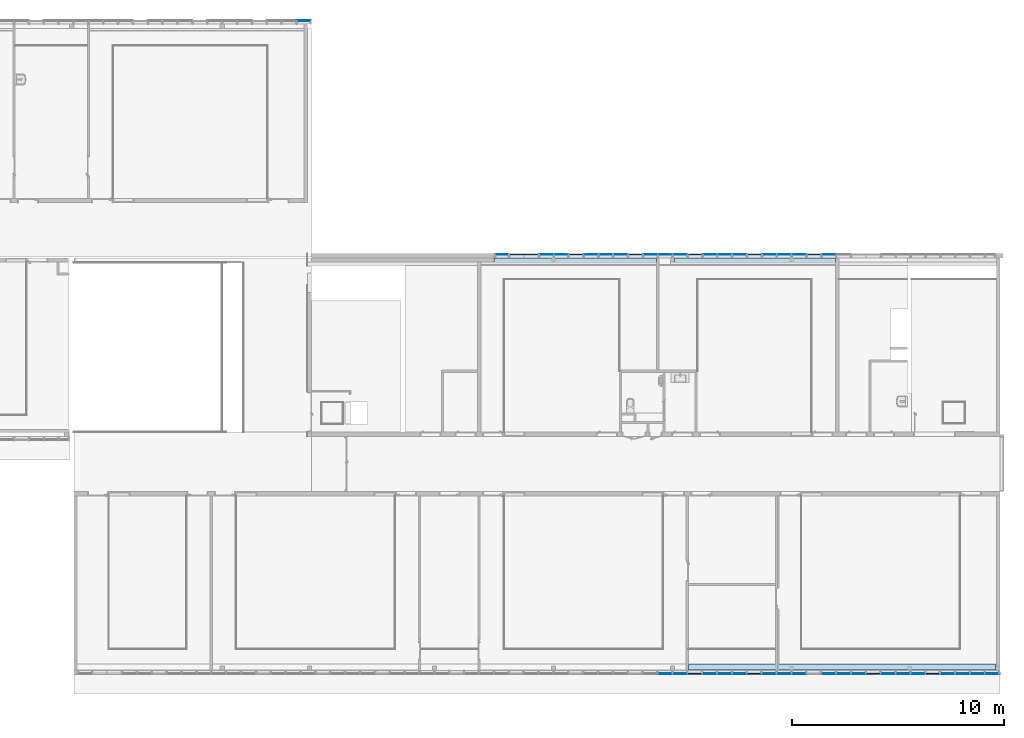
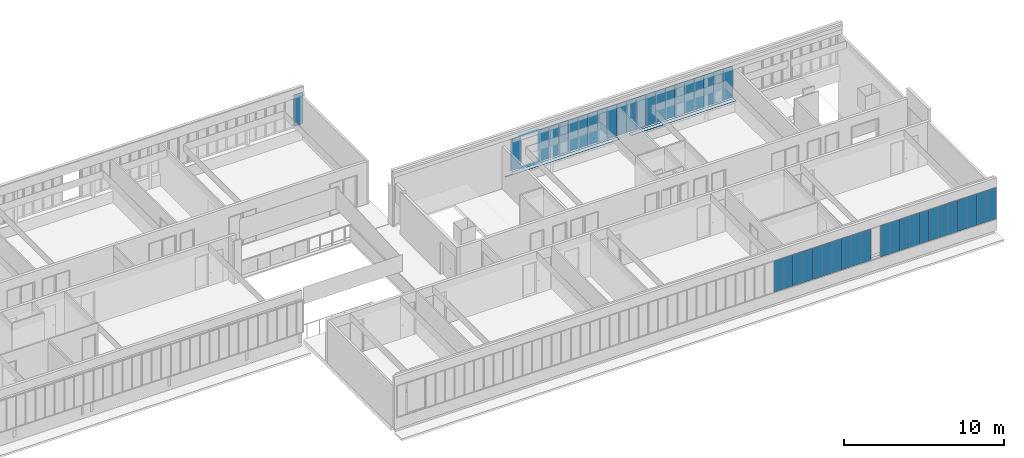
# One storey, part 24 of 87: 46 plates, 3 slabs, 3 elements without a shape of their own.
"""IFC2X3 building model written with IfcOpenShell, lengths in centimetres."""

from ifc_helpers import new_model, entity, si_unit, converted_unit, derived_unit, direction, frame, frame_2d, origin, origin_2d_with_axis, place, context, subcontext, project, spatial, polyline, rectangle, outline, extrude, face_set, faceted_brep, surface_model, source, transform, mapped, material, layer, layer_set, layer_usage, type_object, type_shapes, element, aggregate, save


model = new_model("IFC2X3")

# Units and contexts
model_context = context("Model", 3, precision=0.001, world=origin(), true_north=direction((6.12303176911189e-17, 1.0)))
body_context = subcontext(model_context, "Body", "Model", "MODEL_VIEW")
ifc_project = project(units=[si_unit("LENGTHUNIT", "METRE", prefix="CENTI"), si_unit("AREAUNIT", "SQUARE_METRE"), si_unit("VOLUMEUNIT", "CUBIC_METRE"), converted_unit("PLANEANGLEUNIT", "DEGREE", entity("IfcRatioMeasure", 0.0174532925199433), si_unit("PLANEANGLEUNIT", "RADIAN"), dimensions=[0, 0, 0, 0, 0, 0, 0]), si_unit("MASSUNIT", "GRAM", prefix="KILO"), derived_unit("MASSDENSITYUNIT", [(si_unit("MASSUNIT", "GRAM", prefix="KILO"), 1), (si_unit("LENGTHUNIT", "METRE"), -3)]), si_unit("TIMEUNIT", "SECOND"), si_unit("FREQUENCYUNIT", "HERTZ"), si_unit("THERMODYNAMICTEMPERATUREUNIT", "DEGREE_CELSIUS"), derived_unit("THERMALTRANSMITTANCEUNIT", [(si_unit("MASSUNIT", "GRAM", prefix="KILO"), 1), (si_unit("THERMODYNAMICTEMPERATUREUNIT", "KELVIN"), -1), (si_unit("TIMEUNIT", "SECOND"), -3)]), derived_unit("VOLUMETRICFLOWRATEUNIT", [(si_unit("LENGTHUNIT", "METRE"), 3), (si_unit("TIMEUNIT", "SECOND"), -1)]), si_unit("ELECTRICCURRENTUNIT", "AMPERE"), si_unit("ELECTRICVOLTAGEUNIT", "VOLT"), si_unit("POWERUNIT", "WATT"), si_unit("FORCEUNIT", "NEWTON", prefix="KILO"), si_unit("ILLUMINANCEUNIT", "LUX"), si_unit("LUMINOUSFLUXUNIT", "LUMEN"), si_unit("LUMINOUSINTENSITYUNIT", "CANDELA"), derived_unit("USERDEFINED", [(si_unit("MASSUNIT", "GRAM", prefix="KILO"), -1), (si_unit("LENGTHUNIT", "METRE"), -2), (si_unit("TIMEUNIT", "SECOND"), 3), (si_unit("LUMINOUSFLUXUNIT", "LUMEN"), 1)]), derived_unit("LINEARVELOCITYUNIT", [(si_unit("LENGTHUNIT", "METRE"), 1), (si_unit("TIMEUNIT", "SECOND"), -1)]), si_unit("PRESSUREUNIT", "PASCAL"), derived_unit("USERDEFINED", [(si_unit("LENGTHUNIT", "METRE"), -2), (si_unit("MASSUNIT", "GRAM", prefix="KILO"), 1), (si_unit("TIMEUNIT", "SECOND"), -2)])], contexts=[model_context])

# Site, building, storey
site_placement = place(None, frame((-2781.94577612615, 7442.24238424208, 0.0)))
site = spatial("IfcSite", under=ifc_project, at=site_placement, Name="Default", CompositionType="ELEMENT")
building_placement = place(site_placement, origin())
building = spatial("IfcBuilding", under=site, at=building_placement, CompositionType="ELEMENT")
storey_placement = place(building_placement, frame((0.0, 0.0, 774.0)))
storey = spatial("IfcBuildingStorey", under=building, at=storey_placement, Name="TR - N02 - ARCH", CompositionType="ELEMENT", Elevation=774.0)

# Curtain wall, plate
curtain_wall_type = type_object("IfcCurtainWallType", Name="Mur-rideau:07 - mur rideau trame 70cm", PredefinedType="NOTDEFINED")
curtain_wall_1_placement = place(storey_placement, frame((0.0, 0.0, -774.0)))
curtain_wall_1 = element("IfcCurtainWall", 1, at=curtain_wall_1_placement, inside=storey, type_object=curtain_wall_type, Name="Mur-rideau:07 - mur rideau trame 70cm", ObjectType="Mur-rideau:07 - mur rideau trame 70cm")
ifc_material_1 = material(Name="Verre")
ifc_layer_1 = layer(ifc_material_1, 4.0)
ifc_layer_set_1 = layer_set([ifc_layer_1], Name="Panneau système:Vitré")
ifc_layer_usage_1 = layer_usage(ifc_layer_set_1, "AXIS3", "POSITIVE", 0.0)
plate_type_1 = type_object("IfcPlateType", Name="Vitré", PredefinedType="CURTAIN_PANEL", material=ifc_layer_set_1)
shared_shape_1 = source(origin(), body_context, "Body", "SweptSolid", [
    extrude(rectangle(XDim=4.0, YDim=65.0125000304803, at=origin_2d_with_axis()), frame((0.0, 0.0, 0.0), z_axis=(0.0, 0.0, 1.0), x_axis=(0.0, 1.0, 0.0)), (0.0, 0.0, 1.0), 240.7625),
])
type_shapes(plate_type_1, [shared_shape_1])
plate_1_placement = place(curtain_wall_1_placement, frame((-3686.12487758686, 26.2000000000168, 861.61875), z_axis=(0.0, 0.0, 1.0), x_axis=(-1.0, 0.0, 0.0)))
plate_1 = element("IfcPlate", 2, at=plate_1_placement, type_object=plate_type_1, material=ifc_layer_usage_1, Name="Panneau système:Vitré", ObjectType="Panneau système:Vitré", context=body_context, shape_type="MappedRepresentation", body=[
    mapped(shared_shape_1, transform((0.0, 0.0, 0.0), scale=1.0)),
])
aggregate(curtain_wall_1, [plate_1])

# Curtain wall, plates
curtain_wall_2_placement = place(storey_placement, frame((0.0, 0.0, -774.0)))
curtain_wall_2 = element("IfcCurtainWall", 3, at=curtain_wall_2_placement, inside=storey, type_object=curtain_wall_type, Name="Mur-rideau:07 - mur rideau trame 70cm", ObjectType="Mur-rideau:07 - mur rideau trame 70cm")
ifc_layer_usage_2 = layer_usage(ifc_layer_set_1, "AXIS3", "POSITIVE", 0.0)
plate_type_2 = type_object("IfcPlateType", Name="Vitré", PredefinedType="CURTAIN_PANEL", material=ifc_layer_set_1)
shared_shape_2 = source(origin(), body_context, "Body", "SweptSolid", [
    extrude(rectangle(XDim=4.0, YDim=68.2624999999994, at=origin_2d_with_axis()), frame((0.0, 0.0, 0.0), z_axis=(0.0, 0.0, 1.0), x_axis=(0.0, 1.0, 0.0)), (0.0, 0.0, 1.0), 240.7625),
])
type_shapes(plate_type_2, [shared_shape_2])
plate_2_placement = place(curtain_wall_2_placement, frame((-1985.749882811, -3046.51349958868, 861.618750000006)))
plate_2 = element("IfcPlate", 4, at=plate_2_placement, type_object=plate_type_2, material=ifc_layer_usage_2, Name="Panneau système:Vitré", ObjectType="Panneau système:Vitré", context=body_context, shape_type="MappedRepresentation", body=[
    mapped(shared_shape_2, transform((0.0, 0.0, 0.0), scale=1.0)),
])
ifc_layer_usage_3 = layer_usage(ifc_layer_set_1, "AXIS3", "POSITIVE", 0.0)
plate_3_placement = place(curtain_wall_2_placement, frame((-1915.749882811, -3046.51349958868, 861.618750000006)))
plate_3 = element("IfcPlate", 5, at=plate_3_placement, type_object=plate_type_2, material=ifc_layer_usage_3, Name="Panneau système:Vitré", ObjectType="Panneau système:Vitré", context=body_context, shape_type="MappedRepresentation", body=[
    mapped(shared_shape_2, transform((0.0, 0.0, 0.0), scale=1.0)),
])
ifc_layer_usage_4 = layer_usage(ifc_layer_set_1, "AXIS3", "POSITIVE", 0.0)
plate_4_placement = place(curtain_wall_2_placement, frame((-1775.749882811, -3046.51349958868, 861.618750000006)))
plate_4 = element("IfcPlate", 6, at=plate_4_placement, type_object=plate_type_2, material=ifc_layer_usage_4, Name="Panneau système:Vitré", ObjectType="Panneau système:Vitré", context=body_context, shape_type="MappedRepresentation", body=[
    mapped(shared_shape_2, transform((0.0, 0.0, 0.0), scale=1.0)),
])
ifc_layer_usage_5 = layer_usage(ifc_layer_set_1, "AXIS3", "POSITIVE", 0.0)
plate_5_placement = place(curtain_wall_2_placement, frame((-1705.749882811, -3046.51349958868, 861.618750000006)))
plate_5 = element("IfcPlate", 7, at=plate_5_placement, type_object=plate_type_2, material=ifc_layer_usage_5, Name="Panneau système:Vitré", ObjectType="Panneau système:Vitré", context=body_context, shape_type="MappedRepresentation", body=[
    mapped(shared_shape_2, transform((0.0, 0.0, 0.0), scale=1.0)),
])
ifc_layer_usage_6 = layer_usage(ifc_layer_set_1, "AXIS3", "POSITIVE", 0.0)
plate_6_placement = place(curtain_wall_2_placement, frame((-1635.749882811, -3046.51349958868, 861.618750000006)))
plate_6 = element("IfcPlate", 8, at=plate_6_placement, type_object=plate_type_2, material=ifc_layer_usage_6, Name="Panneau système:Vitré", ObjectType="Panneau système:Vitré", context=body_context, shape_type="MappedRepresentation", body=[
    mapped(shared_shape_2, transform((0.0, 0.0, 0.0), scale=1.0)),
])
ifc_layer_usage_7 = layer_usage(ifc_layer_set_1, "AXIS3", "POSITIVE", 0.0)
plate_7_placement = place(curtain_wall_2_placement, frame((-1495.749882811, -3046.51349958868, 861.618750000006)))
plate_7 = element("IfcPlate", 9, at=plate_7_placement, type_object=plate_type_2, material=ifc_layer_usage_7, Name="Panneau système:Vitré", ObjectType="Panneau système:Vitré", context=body_context, shape_type="MappedRepresentation", body=[
    mapped(shared_shape_2, transform((0.0, 0.0, 0.0), scale=1.0)),
])
ifc_layer_usage_8 = layer_usage(ifc_layer_set_1, "AXIS3", "POSITIVE", 0.0)
plate_8_placement = place(curtain_wall_2_placement, frame((-1425.749882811, -3046.51349958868, 861.618750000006)))
plate_8 = element("IfcPlate", 10, at=plate_8_placement, type_object=plate_type_2, material=ifc_layer_usage_8, Name="Panneau système:Vitré", ObjectType="Panneau système:Vitré", context=body_context, shape_type="MappedRepresentation", body=[
    mapped(shared_shape_2, transform((0.0, 0.0, 0.0), scale=1.0)),
])
ifc_layer_usage_9 = layer_usage(ifc_layer_set_1, "AXIS3", "POSITIVE", 0.0)
plate_9_placement = place(curtain_wall_2_placement, frame((-1355.749882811, -3046.51349958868, 861.618750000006)))
plate_9 = element("IfcPlate", 11, at=plate_9_placement, type_object=plate_type_2, material=ifc_layer_usage_9, Name="Panneau système:Vitré", ObjectType="Panneau système:Vitré", context=body_context, shape_type="MappedRepresentation", body=[
    mapped(shared_shape_2, transform((0.0, 0.0, 0.0), scale=1.0)),
])
ifc_layer_usage_10 = layer_usage(ifc_layer_set_1, "AXIS3", "POSITIVE", 0.0)
plate_10_placement = place(curtain_wall_2_placement, frame((-1215.749882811, -3046.51349958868, 861.618750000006)))
plate_10 = element("IfcPlate", 12, at=plate_10_placement, type_object=plate_type_2, material=ifc_layer_usage_10, Name="Panneau système:Vitré", ObjectType="Panneau système:Vitré", context=body_context, shape_type="MappedRepresentation", body=[
    mapped(shared_shape_2, transform((0.0, 0.0, 0.0), scale=1.0)),
])
ifc_layer_usage_11 = layer_usage(ifc_layer_set_1, "AXIS3", "POSITIVE", 0.0)
plate_11_placement = place(curtain_wall_2_placement, frame((-1145.749882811, -3046.51349958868, 861.618750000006)))
plate_11 = element("IfcPlate", 13, at=plate_11_placement, type_object=plate_type_2, material=ifc_layer_usage_11, Name="Panneau système:Vitré", ObjectType="Panneau système:Vitré", context=body_context, shape_type="MappedRepresentation", body=[
    mapped(shared_shape_2, transform((0.0, 0.0, 0.0), scale=1.0)),
])
ifc_layer_usage_12 = layer_usage(ifc_layer_set_1, "AXIS3", "POSITIVE", 0.0)
plate_12_placement = place(curtain_wall_2_placement, frame((-1075.749882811, -3046.51349958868, 861.618750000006)))
plate_12 = element("IfcPlate", 14, at=plate_12_placement, type_object=plate_type_2, material=ifc_layer_usage_12, Name="Panneau système:Vitré", ObjectType="Panneau système:Vitré", context=body_context, shape_type="MappedRepresentation", body=[
    mapped(shared_shape_2, transform((0.0, 0.0, 0.0), scale=1.0)),
])
ifc_layer_usage_13 = layer_usage(ifc_layer_set_1, "AXIS3", "POSITIVE", 0.0)
plate_13_placement = place(curtain_wall_2_placement, frame((-935.749882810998, -3046.51349958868, 861.618750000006)))
plate_13 = element("IfcPlate", 15, at=plate_13_placement, type_object=plate_type_2, material=ifc_layer_usage_13, Name="Panneau système:Vitré", ObjectType="Panneau système:Vitré", context=body_context, shape_type="MappedRepresentation", body=[
    mapped(shared_shape_2, transform((0.0, 0.0, 0.0), scale=1.0)),
])
ifc_layer_usage_14 = layer_usage(ifc_layer_set_1, "AXIS3", "POSITIVE", 0.0)
plate_14_placement = place(curtain_wall_2_placement, frame((-865.749882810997, -3046.51349958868, 861.618750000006)))
plate_14 = element("IfcPlate", 16, at=plate_14_placement, type_object=plate_type_2, material=ifc_layer_usage_14, Name="Panneau système:Vitré", ObjectType="Panneau système:Vitré", context=body_context, shape_type="MappedRepresentation", body=[
    mapped(shared_shape_2, transform((0.0, 0.0, 0.0), scale=1.0)),
])
ifc_layer_usage_15 = layer_usage(ifc_layer_set_1, "AXIS3", "POSITIVE", 0.0)
plate_15_placement = place(curtain_wall_2_placement, frame((-795.749882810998, -3046.51349958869, 861.618750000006)))
plate_15 = element("IfcPlate", 17, at=plate_15_placement, type_object=plate_type_2, material=ifc_layer_usage_15, Name="Panneau système:Vitré", ObjectType="Panneau système:Vitré", context=body_context, shape_type="MappedRepresentation", body=[
    mapped(shared_shape_2, transform((0.0, 0.0, 0.0), scale=1.0)),
])
ifc_layer_usage_16 = layer_usage(ifc_layer_set_1, "AXIS3", "POSITIVE", 0.0)
plate_16_placement = place(curtain_wall_2_placement, frame((-655.749882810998, -3046.51349958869, 861.618750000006)))
plate_16 = element("IfcPlate", 18, at=plate_16_placement, type_object=plate_type_2, material=ifc_layer_usage_16, Name="Panneau système:Vitré", ObjectType="Panneau système:Vitré", context=body_context, shape_type="MappedRepresentation", body=[
    mapped(shared_shape_2, transform((0.0, 0.0, 0.0), scale=1.0)),
])
ifc_layer_usage_17 = layer_usage(ifc_layer_set_1, "AXIS3", "POSITIVE", 0.0)
plate_17_placement = place(curtain_wall_2_placement, frame((-585.749882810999, -3046.51349958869, 861.618750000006)))
plate_17 = element("IfcPlate", 19, at=plate_17_placement, type_object=plate_type_2, material=ifc_layer_usage_17, Name="Panneau système:Vitré", ObjectType="Panneau système:Vitré", context=body_context, shape_type="MappedRepresentation", body=[
    mapped(shared_shape_2, transform((0.0, 0.0, 0.0), scale=1.0)),
])
ifc_layer_usage_18 = layer_usage(ifc_layer_set_1, "AXIS3", "POSITIVE", 0.0)
plate_18_placement = place(curtain_wall_2_placement, frame((-515.749882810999, -3046.51349958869, 861.618750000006)))
plate_18 = element("IfcPlate", 20, at=plate_18_placement, type_object=plate_type_2, material=ifc_layer_usage_18, Name="Panneau système:Vitré", ObjectType="Panneau système:Vitré", context=body_context, shape_type="MappedRepresentation", body=[
    mapped(shared_shape_2, transform((0.0, 0.0, 0.0), scale=1.0)),
])
plate_type_3 = type_object("IfcPlateType", Name="Vitré", PredefinedType="CURTAIN_PANEL", material=ifc_layer_set_1)
shared_shape_3 = source(origin(), body_context, "Body", "SurfaceModel", [
    surface_model("IfcFaceBasedSurfaceModel", [(33.8093776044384, -2.0, 0.0), (33.8093776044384, -2.0, 244.2375), (-34.1906223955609, -2.0, 244.2375), (-34.1906223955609, -2.0, 0.0), (-34.0718776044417, -2.0, 1.73749999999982), (-34.0718776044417, -2.0, 242.5), (34.1906223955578, -2.0, 242.5), (34.1906223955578, -2.0, 1.73749999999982), (-34.0718776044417, 2.0, 1.73749999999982), (34.1906223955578, 2.0, 1.73749999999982), (34.1906223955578, 2.0, 242.5), (-34.0718776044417, 2.0, 242.5), (-34.1906223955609, 2.0, 0.0), (33.8093776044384, 2.0, 0.0), (-34.1906223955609, 2.0, 244.2375), (33.8093776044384, 2.0, 244.2375)], [face_set([[[0, 1, 2, 3], [4, 5, 6, 7]], [[7, 4, 8, 9]], [[6, 7, 9, 10]], [[5, 6, 10, 11]], [[4, 5, 11, 8]], [[3, 12, 13, 0]], [[2, 14, 12, 3]], [[1, 15, 14, 2]], [[0, 13, 15, 1]]])]),
])
type_shapes(plate_type_3, [shared_shape_3])
plate_19_placement = place(curtain_wall_2_placement, frame((-1845.80925520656, -3046.51349958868, 859.88125)))
plate_19 = element("IfcPlate", 21, at=plate_19_placement, type_object=plate_type_3, Name="Panneau système:Vitré", ObjectType="Panneau système:Vitré", context=body_context, shape_type="MappedRepresentation", body=[
    mapped(shared_shape_3, transform((0.0, 0.0, 0.0), scale=1.0)),
])
plate_20_placement = place(curtain_wall_2_placement, frame((-1565.80925520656, -3046.51349958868, 859.88125)))
plate_20 = element("IfcPlate", 22, at=plate_20_placement, type_object=plate_type_3, Name="Panneau système:Vitré", ObjectType="Panneau système:Vitré", context=body_context, shape_type="MappedRepresentation", body=[
    mapped(shared_shape_3, transform((0.0, 0.0, 0.0), scale=1.0)),
])
plate_21_placement = place(curtain_wall_2_placement, frame((-1005.80925520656, -3046.51349958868, 859.88125)))
plate_21 = element("IfcPlate", 23, at=plate_21_placement, type_object=plate_type_3, Name="Panneau système:Vitré", ObjectType="Panneau système:Vitré", context=body_context, shape_type="MappedRepresentation", body=[
    mapped(shared_shape_3, transform((0.0, 0.0, 0.0), scale=1.0)),
])
plate_22_placement = place(curtain_wall_2_placement, frame((-725.809255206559, -3046.51349958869, 859.88125)))
plate_22 = element("IfcPlate", 24, at=plate_22_placement, type_object=plate_type_3, Name="Panneau système:Vitré", ObjectType="Panneau système:Vitré", context=body_context, shape_type="MappedRepresentation", body=[
    mapped(shared_shape_3, transform((0.0, 0.0, 0.0), scale=1.0)),
])
ifc_layer_usage_19 = layer_usage(ifc_layer_set_1, "AXIS3", "POSITIVE", 0.0)
plate_type_4 = type_object("IfcPlateType", Name="Vitré", PredefinedType="CURTAIN_PANEL", material=ifc_layer_set_1)
shared_shape_4 = source(origin(), body_context, "Body", "SweptSolid", [
    extrude(rectangle(XDim=4.0, YDim=69.1312499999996, at=origin_2d_with_axis()), frame((0.0, 0.0, 0.0), z_axis=(0.0, 0.0, 1.0), x_axis=(0.0, 1.0, 0.0)), (0.0, 0.0, 1.0), 240.7625),
])
type_shapes(plate_type_4, [shared_shape_4])
plate_23_placement = place(curtain_wall_2_placement, frame((-445.315507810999, -3046.51349958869, 861.618750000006)))
plate_23 = element("IfcPlate", 25, at=plate_23_placement, type_object=plate_type_4, material=ifc_layer_usage_19, Name="Panneau système:Vitré", ObjectType="Panneau système:Vitré", context=body_context, shape_type="MappedRepresentation", body=[
    mapped(shared_shape_4, transform((0.0, 0.0, 0.0), scale=1.0)),
])
aggregate(curtain_wall_2, [plate_2, plate_3, plate_19, plate_4, plate_5, plate_6, plate_20, plate_7, plate_8, plate_9, plate_10, plate_11, plate_12, plate_21, plate_13, plate_14, plate_15, plate_22, plate_16, plate_17, plate_18, plate_23])

curtain_wall_3_placement = place(storey_placement, frame((0.0, 0.0, -774.0)))
curtain_wall_3 = element("IfcCurtainWall", 26, at=curtain_wall_3_placement, inside=storey, type_object=curtain_wall_type, Name="Mur-rideau:07 - mur rideau trame 70cm", ObjectType="Mur-rideau:07 - mur rideau trame 70cm")
ifc_layer_usage_20 = layer_usage(ifc_layer_set_1, "AXIS3", "POSITIVE", 0.0)
plate_type_5 = type_object("IfcPlateType", Name="Vitré", PredefinedType="CURTAIN_PANEL", material=ifc_layer_set_1)
shared_shape_5 = source(origin(), body_context, "Body", "SweptSolid", [
    extrude(rectangle(XDim=4.0, YDim=65.0125000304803, at=origin_2d_with_axis()), frame((0.0, 0.0, 0.0), z_axis=(0.0, 0.0, 1.0), x_axis=(0.0, 1.0, 0.0)), (0.0, 0.0, 1.0), 240.7625),
])
type_shapes(plate_type_5, [shared_shape_5])
plate_24_placement = place(curtain_wall_3_placement, frame((-2752.67488285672, -1073.7999999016, 861.61875)))
plate_24 = element("IfcPlate", 27, at=plate_24_placement, type_object=plate_type_5, material=ifc_layer_usage_20, Name="Panneau système:Vitré", ObjectType="Panneau système:Vitré", context=body_context, shape_type="MappedRepresentation", body=[
    mapped(shared_shape_5, transform((0.0, 0.0, 0.0), scale=1.0)),
])
plate_type_6 = type_object("IfcPlateType", Name="Vitré", PredefinedType="CURTAIN_PANEL", material=ifc_layer_set_1)
shared_shape_6 = source(origin(), body_context, "Body", "Brep", [
    faceted_brep([(34.5656249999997, -2.0, 0.0), (-32.1843749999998, -2.0, 0.0), (-32.1843749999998, -2.0, 244.2375), (33.6968749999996, -2.0, 244.2375), (33.6968749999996, -2.0, 242.5), (-34.5656249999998, -2.0, 242.5), (-34.5656249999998, -2.0, 1.73749999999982), (34.5656249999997, -2.0, 1.73749999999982), (34.5656249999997, 2.0, 0.0), (34.5656249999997, 2.0, 1.73749999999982), (-34.5656249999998, 2.0, 1.73749999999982), (-34.5656249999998, 2.0, 242.5), (33.6968749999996, 2.0, 242.5), (33.6968749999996, 2.0, 244.2375), (-32.1843749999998, 2.0, 244.2375), (-32.1843749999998, 2.0, 0.0)], [[[0, 1, 2, 3, 4, 5, 6, 7]], [[8, 9, 10, 11, 12, 13, 14, 15]], [[1, 0, 8, 15]], [[2, 1, 15, 14]], [[3, 2, 14, 13]], [[4, 3, 13, 12]], [[5, 4, 12, 11]], [[6, 5, 11, 10]], [[7, 6, 10, 9]], [[0, 7, 9, 8]]]),
])
type_shapes(plate_type_6, [shared_shape_6])
plate_25_placement = place(curtain_wall_3_placement, frame((-2683.86550784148, -1073.7999999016, 859.88125)))
plate_25 = element("IfcPlate", 28, at=plate_25_placement, type_object=plate_type_6, material=ifc_material_1, Name="Panneau système:Vitré", ObjectType="Panneau système:Vitré", context=body_context, shape_type="MappedRepresentation", body=[
    mapped(shared_shape_6, transform((0.0, 0.0, 0.0), scale=1.0)),
])
plate_type_7 = type_object("IfcPlateType", Name="Vitré", PredefinedType="CURTAIN_PANEL", material=ifc_layer_set_1)
shared_shape_7 = source(origin(), body_context, "Body", "Brep", [
    faceted_brep([(32.1843750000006, -2.0, 0.0), (-34.5656249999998, -2.0, 0.0), (-34.5656249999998, -2.0, 1.73749999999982), (34.5656250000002, -2.0, 1.73749999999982), (34.5656250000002, -2.0, 242.5), (-33.6968749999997, -2.0, 242.5), (-33.6968749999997, -2.0, 244.2375), (32.1843750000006, -2.0, 244.2375), (32.1843750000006, 2.0, 0.0), (32.1843750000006, 2.0, 244.2375), (-33.6968749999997, 2.0, 244.2375), (-33.6968749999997, 2.0, 242.5), (34.5656250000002, 2.0, 242.5), (34.5656250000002, 2.0, 1.73749999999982), (-34.5656249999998, 2.0, 1.73749999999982), (-34.5656249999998, 2.0, 0.0)], [[[0, 1, 2, 3, 4, 5, 6, 7]], [[8, 9, 10, 11, 12, 13, 14, 15]], [[1, 0, 8, 15]], [[2, 1, 15, 14]], [[3, 2, 14, 13]], [[4, 3, 13, 12]], [[5, 4, 12, 11]], [[6, 5, 11, 10]], [[7, 6, 10, 9]], [[0, 7, 9, 8]]]),
])
type_shapes(plate_type_7, [shared_shape_7])
plate_26_placement = place(curtain_wall_3_placement, frame((-2614.73425784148, -1073.7999999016, 859.88125)))
plate_26 = element("IfcPlate", 29, at=plate_26_placement, type_object=plate_type_7, material=ifc_material_1, Name="Panneau système:Vitré", ObjectType="Panneau système:Vitré", context=body_context, shape_type="MappedRepresentation", body=[
    mapped(shared_shape_7, transform((0.0, 0.0, 0.0), scale=1.0)),
])
ifc_layer_usage_21 = layer_usage(ifc_layer_set_1, "AXIS3", "POSITIVE", 0.0)
plate_type_8 = type_object("IfcPlateType", Name="Vitré", PredefinedType="CURTAIN_PANEL", material=ifc_layer_set_1)
shared_shape_8 = source(origin(), body_context, "Body", "SweptSolid", [
    extrude(rectangle(XDim=4.0, YDim=68.2624999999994, at=origin_2d_with_axis()), frame((0.0, 0.0, 0.0), z_axis=(0.0, 0.0, 1.0), x_axis=(0.0, 1.0, 0.0)), (0.0, 0.0, 1.0), 240.7625),
])
type_shapes(plate_type_8, [shared_shape_8])
plate_27_placement = place(curtain_wall_3_placement, frame((-2544.29988284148, -1073.7999999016, 861.61875)))
plate_27 = element("IfcPlate", 30, at=plate_27_placement, type_object=plate_type_8, material=ifc_layer_usage_21, Name="Panneau système:Vitré", ObjectType="Panneau système:Vitré", context=body_context, shape_type="MappedRepresentation", body=[
    mapped(shared_shape_8, transform((0.0, 0.0, 0.0), scale=1.0)),
])
ifc_layer_usage_22 = layer_usage(ifc_layer_set_1, "AXIS3", "POSITIVE", 0.0)
plate_28_placement = place(curtain_wall_3_placement, frame((-2474.29988284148, -1073.7999999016, 861.61875)))
plate_28 = element("IfcPlate", 31, at=plate_28_placement, type_object=plate_type_8, material=ifc_layer_usage_22, Name="Panneau système:Vitré", ObjectType="Panneau système:Vitré", context=body_context, shape_type="MappedRepresentation", body=[
    mapped(shared_shape_8, transform((0.0, 0.0, 0.0), scale=1.0)),
])
ifc_layer_usage_23 = layer_usage(ifc_layer_set_1, "AXIS3", "POSITIVE", 0.0)
plate_29_placement = place(curtain_wall_3_placement, frame((-2334.29988284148, -1073.7999999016, 861.61875)))
plate_29 = element("IfcPlate", 32, at=plate_29_placement, type_object=plate_type_8, material=ifc_layer_usage_23, Name="Panneau système:Vitré", ObjectType="Panneau système:Vitré", context=body_context, shape_type="MappedRepresentation", body=[
    mapped(shared_shape_8, transform((0.0, 0.0, 0.0), scale=1.0)),
])
ifc_layer_usage_24 = layer_usage(ifc_layer_set_1, "AXIS3", "POSITIVE", 0.0)
plate_30_placement = place(curtain_wall_3_placement, frame((-2264.29988284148, -1073.7999999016, 861.61875)))
plate_30 = element("IfcPlate", 33, at=plate_30_placement, type_object=plate_type_8, material=ifc_layer_usage_24, Name="Panneau système:Vitré", ObjectType="Panneau système:Vitré", context=body_context, shape_type="MappedRepresentation", body=[
    mapped(shared_shape_8, transform((0.0, 0.0, 0.0), scale=1.0)),
])
ifc_layer_usage_25 = layer_usage(ifc_layer_set_1, "AXIS3", "POSITIVE", 0.0)
plate_31_placement = place(curtain_wall_3_placement, frame((-2194.29988284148, -1073.7999999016, 861.61875)))
plate_31 = element("IfcPlate", 34, at=plate_31_placement, type_object=plate_type_8, material=ifc_layer_usage_25, Name="Panneau système:Vitré", ObjectType="Panneau système:Vitré", context=body_context, shape_type="MappedRepresentation", body=[
    mapped(shared_shape_8, transform((0.0, 0.0, 0.0), scale=1.0)),
])
ifc_layer_usage_26 = layer_usage(ifc_layer_set_1, "AXIS3", "POSITIVE", 0.0)
plate_32_placement = place(curtain_wall_3_placement, frame((-2054.29988284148, -1073.7999999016, 861.61875)))
plate_32 = element("IfcPlate", 35, at=plate_32_placement, type_object=plate_type_8, material=ifc_layer_usage_26, Name="Panneau système:Vitré", ObjectType="Panneau système:Vitré", context=body_context, shape_type="MappedRepresentation", body=[
    mapped(shared_shape_8, transform((0.0, 0.0, 0.0), scale=1.0)),
])
ifc_layer_usage_27 = layer_usage(ifc_layer_set_1, "AXIS3", "POSITIVE", 0.0)
plate_33_placement = place(curtain_wall_3_placement, frame((-1984.29988284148, -1073.7999999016, 861.61875)))
plate_33 = element("IfcPlate", 36, at=plate_33_placement, type_object=plate_type_8, material=ifc_layer_usage_27, Name="Panneau système:Vitré", ObjectType="Panneau système:Vitré", context=body_context, shape_type="MappedRepresentation", body=[
    mapped(shared_shape_8, transform((0.0, 0.0, 0.0), scale=1.0)),
])
ifc_layer_usage_28 = layer_usage(ifc_layer_set_1, "AXIS3", "POSITIVE", 0.0)
plate_34_placement = place(curtain_wall_3_placement, frame((-1914.29988284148, -1073.7999999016, 861.61875)))
plate_34 = element("IfcPlate", 37, at=plate_34_placement, type_object=plate_type_8, material=ifc_layer_usage_28, Name="Panneau système:Vitré", ObjectType="Panneau système:Vitré", context=body_context, shape_type="MappedRepresentation", body=[
    mapped(shared_shape_8, transform((0.0, 0.0, 0.0), scale=1.0)),
])
ifc_layer_usage_29 = layer_usage(ifc_layer_set_1, "AXIS3", "POSITIVE", 0.0)
plate_35_placement = place(curtain_wall_3_placement, frame((-1774.29988284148, -1073.7999999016, 861.61875)))
plate_35 = element("IfcPlate", 38, at=plate_35_placement, type_object=plate_type_8, material=ifc_layer_usage_29, Name="Panneau système:Vitré", ObjectType="Panneau système:Vitré", context=body_context, shape_type="MappedRepresentation", body=[
    mapped(shared_shape_8, transform((0.0, 0.0, 0.0), scale=1.0)),
])
ifc_layer_usage_30 = layer_usage(ifc_layer_set_1, "AXIS3", "POSITIVE", 0.0)
plate_36_placement = place(curtain_wall_3_placement, frame((-1704.29988284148, -1073.7999999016, 861.61875)))
plate_36 = element("IfcPlate", 39, at=plate_36_placement, type_object=plate_type_8, material=ifc_layer_usage_30, Name="Panneau système:Vitré", ObjectType="Panneau système:Vitré", context=body_context, shape_type="MappedRepresentation", body=[
    mapped(shared_shape_8, transform((0.0, 0.0, 0.0), scale=1.0)),
])
ifc_layer_usage_31 = layer_usage(ifc_layer_set_1, "AXIS3", "POSITIVE", 0.0)
plate_37_placement = place(curtain_wall_3_placement, frame((-1634.29988284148, -1073.7999999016, 861.61875)))
plate_37 = element("IfcPlate", 40, at=plate_37_placement, type_object=plate_type_8, material=ifc_layer_usage_31, Name="Panneau système:Vitré", ObjectType="Panneau système:Vitré", context=body_context, shape_type="MappedRepresentation", body=[
    mapped(shared_shape_8, transform((0.0, 0.0, 0.0), scale=1.0)),
])
ifc_layer_usage_32 = layer_usage(ifc_layer_set_1, "AXIS3", "POSITIVE", 0.0)
plate_38_placement = place(curtain_wall_3_placement, frame((-1494.29988284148, -1073.7999999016, 861.61875)))
plate_38 = element("IfcPlate", 41, at=plate_38_placement, type_object=plate_type_8, material=ifc_layer_usage_32, Name="Panneau système:Vitré", ObjectType="Panneau système:Vitré", context=body_context, shape_type="MappedRepresentation", body=[
    mapped(shared_shape_8, transform((0.0, 0.0, 0.0), scale=1.0)),
])
ifc_layer_usage_33 = layer_usage(ifc_layer_set_1, "AXIS3", "POSITIVE", 0.0)
plate_39_placement = place(curtain_wall_3_placement, frame((-1424.29988284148, -1073.7999999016, 861.61875)))
plate_39 = element("IfcPlate", 42, at=plate_39_placement, type_object=plate_type_8, material=ifc_layer_usage_33, Name="Panneau système:Vitré", ObjectType="Panneau système:Vitré", context=body_context, shape_type="MappedRepresentation", body=[
    mapped(shared_shape_8, transform((0.0, 0.0, 0.0), scale=1.0)),
])
ifc_layer_usage_34 = layer_usage(ifc_layer_set_1, "AXIS3", "POSITIVE", 0.0)
plate_40_placement = place(curtain_wall_3_placement, frame((-1354.29988284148, -1073.7999999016, 861.61875)))
plate_40 = element("IfcPlate", 43, at=plate_40_placement, type_object=plate_type_8, material=ifc_layer_usage_34, Name="Panneau système:Vitré", ObjectType="Panneau système:Vitré", context=body_context, shape_type="MappedRepresentation", body=[
    mapped(shared_shape_8, transform((0.0, 0.0, 0.0), scale=1.0)),
])
ifc_layer_usage_35 = layer_usage(ifc_layer_set_1, "AXIS3", "POSITIVE", 0.0)
plate_41_placement = place(curtain_wall_3_placement, frame((-1214.29988284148, -1073.7999999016, 861.61875)))
plate_41 = element("IfcPlate", 44, at=plate_41_placement, type_object=plate_type_8, material=ifc_layer_usage_35, Name="Panneau système:Vitré", ObjectType="Panneau système:Vitré", context=body_context, shape_type="MappedRepresentation", body=[
    mapped(shared_shape_8, transform((0.0, 0.0, 0.0), scale=1.0)),
])
plate_type_9 = type_object("IfcPlateType", Name="Vitré", PredefinedType="CURTAIN_PANEL", material=ifc_layer_set_1)
shared_shape_9 = source(origin(), body_context, "Body", "Brep", [
    faceted_brep([(-34.1312500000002, -2.0, 1.73749999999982), (34.1312500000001, -2.0, 1.73749999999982), (34.1312500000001, -2.0, 242.5), (-34.1312500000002, -2.0, 242.5), (34.0312500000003, -2.0, 0.0), (34.0312500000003, -2.0, 244.2375), (-33.9687499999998, -2.0, 244.2375), (-33.9687499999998, -2.0, 0.0), (-34.1312500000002, 2.0, 1.73749999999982), (-34.1312500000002, 2.0, 242.5), (34.1312500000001, 2.0, 242.5), (34.1312500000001, 2.0, 1.73749999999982), (34.0312500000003, 2.0, 0.0), (-33.9687499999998, 2.0, 0.0), (-33.9687499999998, 2.0, 244.2375), (34.0312500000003, 2.0, 244.2375)], [[[0, 1, 2, 3]], [[4, 5, 6, 7]], [[8, 9, 10, 11]], [[12, 13, 14, 15]], [[1, 0, 8, 11]], [[2, 1, 11, 10]], [[3, 2, 10, 9]], [[0, 3, 9, 8]], [[7, 13, 12, 4]], [[6, 14, 13, 7]], [[5, 15, 14, 6]], [[4, 12, 15, 5]]]),
])
type_shapes(plate_type_9, [shared_shape_9])
plate_42_placement = place(curtain_wall_3_placement, frame((-2404.29988284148, -1073.7999999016, 859.88125)))
plate_42 = element("IfcPlate", 45, at=plate_42_placement, type_object=plate_type_9, Name="Panneau système:Vitré", ObjectType="Panneau système:Vitré", context=body_context, shape_type="MappedRepresentation", body=[
    mapped(shared_shape_9, transform((0.0, 0.0, 0.0), scale=1.0)),
])
plate_43_placement = place(curtain_wall_3_placement, frame((-2124.29988284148, -1073.7999999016, 859.88125)))
plate_43 = element("IfcPlate", 46, at=plate_43_placement, type_object=plate_type_9, Name="Panneau système:Vitré", ObjectType="Panneau système:Vitré", context=body_context, shape_type="MappedRepresentation", body=[
    mapped(shared_shape_9, transform((0.0, 0.0, 0.0), scale=1.0)),
])
plate_44_placement = place(curtain_wall_3_placement, frame((-1844.29988284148, -1073.7999999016, 859.88125)))
plate_44 = element("IfcPlate", 47, at=plate_44_placement, type_object=plate_type_9, Name="Panneau système:Vitré", ObjectType="Panneau système:Vitré", context=body_context, shape_type="MappedRepresentation", body=[
    mapped(shared_shape_9, transform((0.0, 0.0, 0.0), scale=1.0)),
])
plate_45_placement = place(curtain_wall_3_placement, frame((-1564.29988284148, -1073.7999999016, 859.88125)))
plate_45 = element("IfcPlate", 48, at=plate_45_placement, type_object=plate_type_9, Name="Panneau système:Vitré", ObjectType="Panneau système:Vitré", context=body_context, shape_type="MappedRepresentation", body=[
    mapped(shared_shape_9, transform((0.0, 0.0, 0.0), scale=1.0)),
])
plate_46_placement = place(curtain_wall_3_placement, frame((-1284.29988284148, -1073.7999999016, 859.88125)))
plate_46 = element("IfcPlate", 49, at=plate_46_placement, type_object=plate_type_9, Name="Panneau système:Vitré", ObjectType="Panneau système:Vitré", context=body_context, shape_type="MappedRepresentation", body=[
    mapped(shared_shape_9, transform((0.0, 0.0, 0.0), scale=1.0)),
])
aggregate(curtain_wall_3, [plate_24, plate_25, plate_26, plate_27, plate_28, plate_42, plate_29, plate_30, plate_31, plate_43, plate_32, plate_33, plate_34, plate_44, plate_35, plate_36, plate_37, plate_45, plate_38, plate_39, plate_40, plate_46, plate_41])

# Slabs
ifc_material_2 = material(Name="Bois tablettes")
ifc_layer_2 = layer(ifc_material_2, 2.0)
ifc_layer_set_2 = layer_set([ifc_layer_2], Name="Sol:02 - Tablette bois 2cm")
ifc_layer_usage_36 = layer_usage(ifc_layer_set_2, "AXIS3", "POSITIVE", 0.0)
slab_type_1 = type_object("IfcSlabType", Name="Sol:02 - Tablette bois 2cm", PredefinedType="FLOOR")
slab_1_placement = place(storey_placement, frame((-7966.49987760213, -3031.21349958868, 88.0)))
element("IfcSlab", 50, at=slab_1_placement, inside=storey, type_object=slab_type_1, material=ifc_layer_usage_36, Name="Sol:02 - Tablette bois 2cm:5", ObjectType="Sol:02 - Tablette bois 2cm", PredefinedType="FLOOR", context=body_context, shape_type="SweptSolid", body=[
    extrude(rectangle(XDim=30.0000000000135, YDim=1445.8, at=frame_2d((-3045.34999738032, -550.667232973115), x_axis=(0.0, -1.0))), frame((3768.24999738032, 566.567232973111, 2.0), z_axis=(0.0, 0.0, -1.0), x_axis=(-1.0, 0.0, 0.0)), (0.0, 0.0, 1.0), 1.99999999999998),
])
ifc_layer_usage_37 = layer_usage(ifc_layer_set_2, "AXIS3", "POSITIVE", 0.0)
slab_type_2 = type_object("IfcSlabType", Name="Sol:02 - Tablette bois 2cm", PredefinedType="FLOOR")
slab_2_placement = place(storey_placement, frame((-8394.19987766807, -1120.0, 88.0)))
element("IfcSlab", 51, at=slab_2_placement, inside=storey, type_object=slab_type_2, material=ifc_layer_usage_37, Name="Sol:02 - Tablette bois 2cm:7", ObjectType="Sol:02 - Tablette bois 2cm", PredefinedType="FLOOR", context=body_context, shape_type="SweptSolid", body=[
    extrude(outline(polyline([(-2595.44999741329, -535.0), (-2595.44999741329, -565.0), (-1768.44999741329, -565.0), (-1768.44999741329, -555.0), (-1830.44999738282, -555.0), (-1830.44999738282, -535.0), (-2595.44999741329, -535.0)])), frame((3774.44999741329, 565.0, 2.0), z_axis=(0.0, 0.0, -1.0), x_axis=(-1.0, 0.0, 0.0)), (0.0, 0.0, 1.0), 1.99999999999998),
])
slab_type_3 = type_object("IfcSlabType", Name="Sol:02 - Tablette bois 2cm", PredefinedType="FLOOR")
slab_3_placement = place(storey_placement, frame((-8394.19987766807, -1120.0, 88.0)))
element("IfcSlab", 52, at=slab_3_placement, inside=storey, type_object=slab_type_3, material=ifc_layer_usage_37, Name="Sol:02 - Tablette bois 2cm:9", ObjectType="Sol:02 - Tablette bois 2cm", PredefinedType="FLOOR", context=body_context, shape_type="SweptSolid", body=[
    extrude(rectangle(XDim=29.9999999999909, YDim=757.449992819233, at=frame_2d((-3058.47500100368, -550.0), x_axis=(0.0, -1.0))), frame((3774.44999741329, 565.0, 2.0), z_axis=(0.0, 0.0, -1.0), x_axis=(-1.0, 0.0, 0.0)), (0.0, 0.0, 1.0), 1.99999999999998),
])

save(model, "model.ifc")
